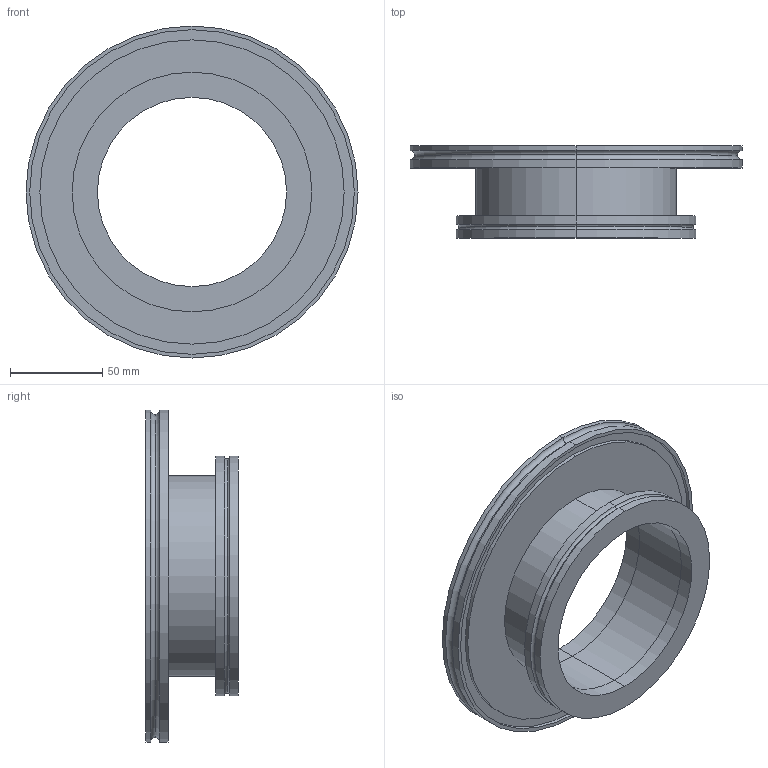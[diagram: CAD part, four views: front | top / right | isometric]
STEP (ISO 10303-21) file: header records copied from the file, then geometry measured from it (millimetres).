
FILE_DESCRIPTION (( 'STEP AP214' ), '1' );
FILE_NAME ('W4RS100-160.STEP', '2020-10-06T08:12:38', ( '' ), ( '' ), 'SwSTEP 2.0', 'SolidWorks 2020', '' );
FILE_SCHEMA (( 'AUTOMOTIVE_DESIGN' ));
Length unit declared in the file: millimetre
Products named in the file (1): W4RS100-160
Bounding box: 180 x 50 x 180 mm (x, y, z)
Volume: 262304.2 mm3; surface area: 95772.1 mm2
Topology: 3 solids, 3 shells, 51 faces, 102 edges, 64 vertices
Faces by surface type: cylinder 30, plane 13, torus 8
Entity records: 1416 total; most frequent: DIRECTION 278, CARTESIAN_POINT 218, ORIENTED_EDGE 204, AXIS2_PLACEMENT_3D 124, EDGE_CURVE 102, CIRCLE 72, EDGE_LOOP 64, VERTEX_POINT 64
